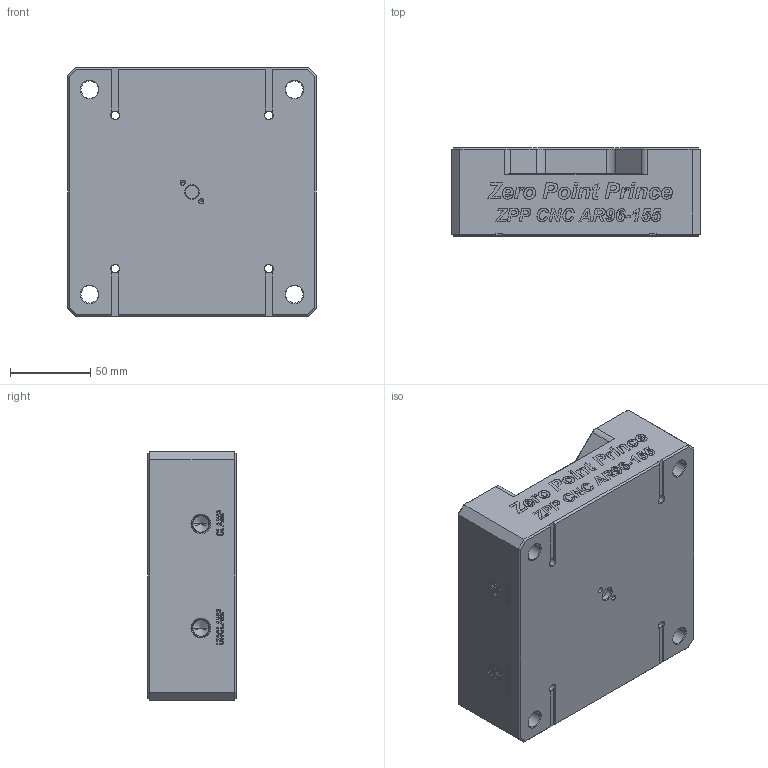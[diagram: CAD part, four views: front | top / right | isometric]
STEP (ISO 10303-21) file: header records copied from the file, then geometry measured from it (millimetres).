
FILE_DESCRIPTION((''),'2;1');
FILE_NAME('AR96-155','2025-10-22T14:52:20',('XF'),(''),'CREO PARAMETRIC BY PTC INC, 2023073','CREO PARAMETRIC BY PTC INC, 2023073','');
FILE_SCHEMA(('CONFIG_CONTROL_DESIGN'));
Products named in the file (1): AR96-155
Bounding box: 155 x 55 x 155 mm (x, y, z)
Volume: 1200368.9 mm3; surface area: 102255.6 mm2
Topology: 1 solids, 5 shells, 1656 faces, 4545 edges, 3012 vertices
Faces by surface type: extrusion 722, plane 641, cylinder 171, cone 92, bspline 22, torus 8
Entity records: 60668 total; most frequent: CARTESIAN_POINT 21366, ORIENTED_EDGE 9042, DIRECTION 5916, EDGE_CURVE 4529, VECTOR 3218, VERTEX_POINT 3012, LINE 2496, B_SPLINE_CURVE_WITH_KNOTS 2319
